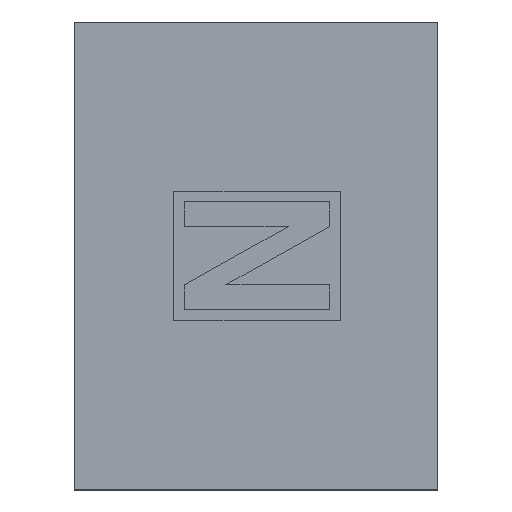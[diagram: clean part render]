
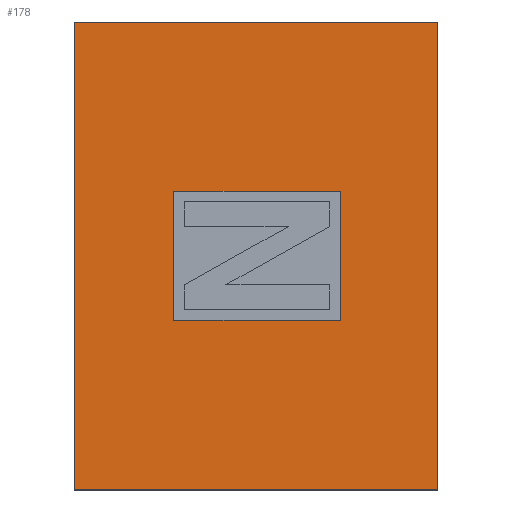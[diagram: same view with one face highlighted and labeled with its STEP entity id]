
A CAD part, top view. The second image highlights one B-rep face of the part: STEP entity #178.
In plain terms, the highlighted planar face has unit normal (0, 0, 1).
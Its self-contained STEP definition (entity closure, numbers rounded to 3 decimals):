
#154=FACE_BOUND('',#319,.T.);
#155=FACE_BOUND('',#320,.T.);
#178=ADVANCED_FACE('',(#154,#155),#233,.F.);
#233=PLANE('',#963);
#319=EDGE_LOOP('',(#442,#443,#444,#445));
#320=EDGE_LOOP('',(#446,#447,#448,#449));
#442=ORIENTED_EDGE('',*,*,#729,.F.);
#443=ORIENTED_EDGE('',*,*,#730,.F.);
#444=ORIENTED_EDGE('',*,*,#731,.F.);
#445=ORIENTED_EDGE('',*,*,#732,.F.);
#446=ORIENTED_EDGE('',*,*,#728,.F.);
#447=ORIENTED_EDGE('',*,*,#726,.F.);
#448=ORIENTED_EDGE('',*,*,#724,.F.);
#449=ORIENTED_EDGE('',*,*,#721,.F.);
#632=VERTEX_POINT('',#1323);
#633=VERTEX_POINT('',#1324);
#634=VERTEX_POINT('',#1329);
#635=VERTEX_POINT('',#1333);
#636=VERTEX_POINT('',#1339);
#637=VERTEX_POINT('',#1340);
#638=VERTEX_POINT('',#1342);
#639=VERTEX_POINT('',#1344);
#721=EDGE_CURVE('',#632,#633,#844,.T.);
#724=EDGE_CURVE('',#633,#634,#847,.T.);
#726=EDGE_CURVE('',#634,#635,#849,.T.);
#728=EDGE_CURVE('',#635,#632,#851,.T.);
#729=EDGE_CURVE('',#636,#637,#852,.T.);
#730=EDGE_CURVE('',#638,#636,#853,.T.);
#731=EDGE_CURVE('',#639,#638,#854,.T.);
#732=EDGE_CURVE('',#637,#639,#855,.T.);
#844=LINE('',#1322,#912);
#847=LINE('',#1328,#915);
#849=LINE('',#1332,#917);
#851=LINE('',#1336,#919);
#852=LINE('',#1338,#920);
#853=LINE('',#1341,#921);
#854=LINE('',#1343,#922);
#855=LINE('',#1345,#923);
#912=VECTOR('',#1085,1.);
#915=VECTOR('',#1090,1.);
#917=VECTOR('',#1094,1.);
#919=VECTOR('',#1098,1.);
#920=VECTOR('',#1101,1.);
#921=VECTOR('',#1102,1.);
#922=VECTOR('',#1103,1.);
#923=VECTOR('',#1104,1.);
#963=AXIS2_PLACEMENT_3D('',#1346,#1105,#1106);
#1085=DIRECTION('',(0.,-1.,0.));
#1090=DIRECTION('',(1.,0.,0.));
#1094=DIRECTION('',(0.,1.,0.));
#1098=DIRECTION('',(-1.,0.,0.));
#1101=DIRECTION('',(0.,1.,0.));
#1102=DIRECTION('',(-1.,0.,0.));
#1103=DIRECTION('',(0.,-1.,0.));
#1104=DIRECTION('',(1.,0.,0.));
#1105=DIRECTION('',(0.,0.,-1.));
#1106=DIRECTION('',(-1.,0.,0.));
#1322=CARTESIAN_POINT('',(-3.95,3.1,16.));
#1323=CARTESIAN_POINT('',(-3.95,3.1,16.));
#1324=CARTESIAN_POINT('',(-3.95,-3.1,16.));
#1328=CARTESIAN_POINT('',(-3.95,-3.1,16.));
#1329=CARTESIAN_POINT('',(4.05,-3.1,16.));
#1332=CARTESIAN_POINT('',(4.05,-3.1,16.));
#1333=CARTESIAN_POINT('',(4.05,3.1,16.));
#1336=CARTESIAN_POINT('',(4.05,3.1,16.));
#1338=CARTESIAN_POINT('',(-8.75,-11.25,16.));
#1339=CARTESIAN_POINT('',(-8.75,-11.25,16.));
#1340=CARTESIAN_POINT('',(-8.75,11.25,16.));
#1341=CARTESIAN_POINT('',(8.75,-11.25,16.));
#1342=CARTESIAN_POINT('',(8.75,-11.25,16.));
#1343=CARTESIAN_POINT('',(8.75,11.25,16.));
#1344=CARTESIAN_POINT('',(8.75,11.25,16.));
#1345=CARTESIAN_POINT('',(-8.75,11.25,16.));
#1346=CARTESIAN_POINT('',(-8.75,11.25,16.));
